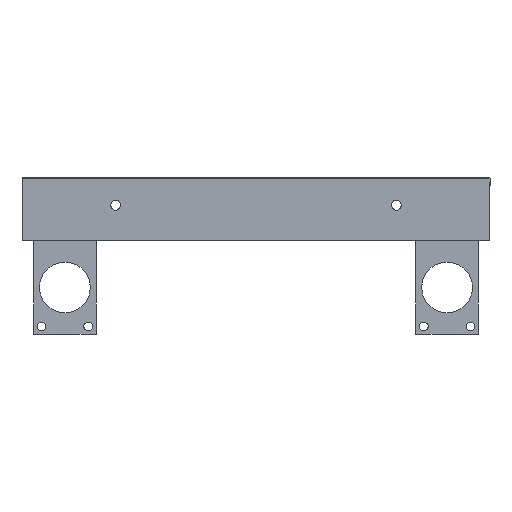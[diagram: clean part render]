
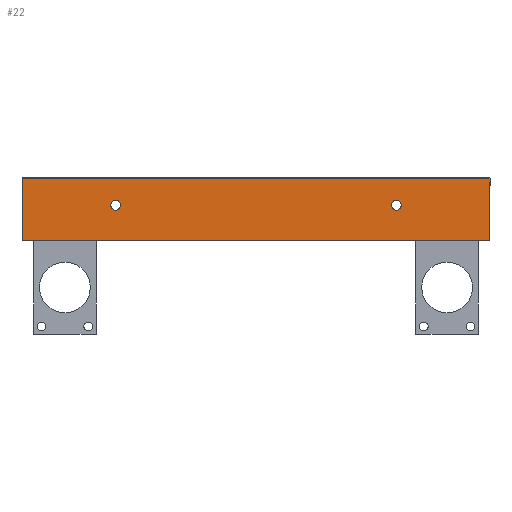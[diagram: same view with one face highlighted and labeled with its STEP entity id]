
A CAD part, front view. The second image highlights one B-rep face of the part: STEP entity #22.
In plain terms, the highlighted planar face has unit normal (0, -1, 0).
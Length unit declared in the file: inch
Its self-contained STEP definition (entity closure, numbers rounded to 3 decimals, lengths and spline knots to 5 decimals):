
#1 = EDGE_LOOP ( 'NONE', ( #15, #95, #1087, #566 ) ) ;
#5 = DIRECTION ( 'NONE',  ( 0., 0., 1. ) ) ;
#8 = CARTESIAN_POINT ( 'NONE',  ( 0., 0., 0. ) ) ;
#15 = ORIENTED_EDGE ( 'NONE', *, *, #1073, .T. ) ;
#19 = CARTESIAN_POINT ( 'NONE',  ( 30., 0., -4. ) ) ;
#22 = ADVANCED_FACE ( 'NONE', ( #182, #578, #387 ), #989, .F. ) ;
#45 = CIRCLE ( 'NONE', #1286, 0.3125 ) ;
#57 = CARTESIAN_POINT ( 'NONE',  ( 6., 0., -2.26792 ) ) ;
#95 = ORIENTED_EDGE ( 'NONE', *, *, #1107, .F. ) ;
#108 = DIRECTION ( 'NONE',  ( 0., 0., -1. ) ) ;
#150 = VERTEX_POINT ( 'NONE', #497 ) ;
#152 = VECTOR ( 'NONE', #245, 39.37008 ) ;
#154 = DIRECTION ( 'NONE',  ( 0., 0., 1. ) ) ;
#175 = CARTESIAN_POINT ( 'NONE',  ( 24., 0., -2.26792 ) ) ;
#182 = FACE_BOUND ( 'NONE', #1081, .T. ) ;
#189 = CARTESIAN_POINT ( 'NONE',  ( 30., 0., -4. ) ) ;
#215 = EDGE_CURVE ( 'NONE', #150, #222, #933, .T. ) ;
#216 = VERTEX_POINT ( 'NONE', #433 ) ;
#222 = VERTEX_POINT ( 'NONE', #19 ) ;
#235 = DIRECTION ( 'NONE',  ( 0., 1., 0. ) ) ;
#238 = VERTEX_POINT ( 'NONE', #925 ) ;
#245 = DIRECTION ( 'NONE',  ( -1., 0., 0. ) ) ;
#266 = CARTESIAN_POINT ( 'NONE',  ( 24., 0., -2.26792 ) ) ;
#315 = DIRECTION ( 'NONE',  ( 0., 0., 1. ) ) ;
#350 = VERTEX_POINT ( 'NONE', #559 ) ;
#387 = FACE_OUTER_BOUND ( 'NONE', #1, .T. ) ;
#433 = CARTESIAN_POINT ( 'NONE',  ( 0., 0., -4. ) ) ;
#445 = AXIS2_PLACEMENT_3D ( 'NONE', #830, #235, #315 ) ;
#447 = VERTEX_POINT ( 'NONE', #1321 ) ;
#472 = DIRECTION ( 'NONE',  ( 0., 0., 1. ) ) ;
#497 = CARTESIAN_POINT ( 'NONE',  ( 30., 0., 0. ) ) ;
#509 = CARTESIAN_POINT ( 'NONE',  ( 30., 0., 0. ) ) ;
#559 = CARTESIAN_POINT ( 'NONE',  ( 24., 0., -2.58042 ) ) ;
#560 = DIRECTION ( 'NONE',  ( 0., 1., 0. ) ) ;
#566 = ORIENTED_EDGE ( 'NONE', *, *, #624, .T. ) ;
#578 = FACE_BOUND ( 'NONE', #1305, .T. ) ;
#622 = VERTEX_POINT ( 'NONE', #8 ) ;
#624 = EDGE_CURVE ( 'NONE', #150, #622, #1052, .T. ) ;
#638 = DIRECTION ( 'NONE',  ( 0., 0., -1. ) ) ;
#681 = VECTOR ( 'NONE', #108, 39.37008 ) ;
#721 = CARTESIAN_POINT ( 'NONE',  ( 30., 0., -4. ) ) ;
#745 = CIRCLE ( 'NONE', #1160, 0.3125 ) ;
#777 = DIRECTION ( 'NONE',  ( 0., 1., 0. ) ) ;
#786 = CIRCLE ( 'NONE', #907, 0.3125 ) ;
#791 = DIRECTION ( 'NONE',  ( 0., 1., 0. ) ) ;
#805 = ORIENTED_EDGE ( 'NONE', *, *, #1006, .T. ) ;
#809 = DIRECTION ( 'NONE',  ( -1., 0., 0. ) ) ;
#830 = CARTESIAN_POINT ( 'NONE',  ( 6., 0., -2.26792 ) ) ;
#907 = AXIS2_PLACEMENT_3D ( 'NONE', #57, #777, #154 ) ;
#918 = DIRECTION ( 'NONE',  ( 0., 1., 0. ) ) ;
#925 = CARTESIAN_POINT ( 'NONE',  ( 6., 0., -1.95542 ) ) ;
#927 = LINE ( 'NONE', #1166, #152 ) ;
#929 = ORIENTED_EDGE ( 'NONE', *, *, #1171, .T. ) ;
#933 = LINE ( 'NONE', #721, #1095 ) ;
#941 = ORIENTED_EDGE ( 'NONE', *, *, #1202, .T. ) ;
#951 = CARTESIAN_POINT ( 'NONE',  ( 24., 0., -1.95542 ) ) ;
#982 = AXIS2_PLACEMENT_3D ( 'NONE', #189, #791, #472 ) ;
#989 = PLANE ( 'NONE',  #982 ) ;
#993 = DIRECTION ( 'NONE',  ( 0., 0., 1. ) ) ;
#1006 = EDGE_CURVE ( 'NONE', #1086, #350, #745, .T. ) ;
#1011 = ORIENTED_EDGE ( 'NONE', *, *, #1228, .T. ) ;
#1026 = CIRCLE ( 'NONE', #445, 0.3125 ) ;
#1052 = LINE ( 'NONE', #509, #1240 ) ;
#1055 = LINE ( 'NONE', #1172, #681 ) ;
#1073 = EDGE_CURVE ( 'NONE', #622, #216, #1055, .T. ) ;
#1081 = EDGE_LOOP ( 'NONE', ( #805, #1011 ) ) ;
#1086 = VERTEX_POINT ( 'NONE', #951 ) ;
#1087 = ORIENTED_EDGE ( 'NONE', *, *, #215, .F. ) ;
#1095 = VECTOR ( 'NONE', #638, 39.37008 ) ;
#1107 = EDGE_CURVE ( 'NONE', #222, #216, #927, .T. ) ;
#1160 = AXIS2_PLACEMENT_3D ( 'NONE', #266, #918, #5 ) ;
#1166 = CARTESIAN_POINT ( 'NONE',  ( 30., 0., -4. ) ) ;
#1171 = EDGE_CURVE ( 'NONE', #238, #447, #1026, .T. ) ;
#1172 = CARTESIAN_POINT ( 'NONE',  ( 0., 0., -4. ) ) ;
#1202 = EDGE_CURVE ( 'NONE', #447, #238, #786, .T. ) ;
#1228 = EDGE_CURVE ( 'NONE', #350, #1086, #45, .T. ) ;
#1240 = VECTOR ( 'NONE', #809, 39.37008 ) ;
#1286 = AXIS2_PLACEMENT_3D ( 'NONE', #175, #560, #993 ) ;
#1305 = EDGE_LOOP ( 'NONE', ( #929, #941 ) ) ;
#1321 = CARTESIAN_POINT ( 'NONE',  ( 6., 0., -2.58042 ) ) ;
